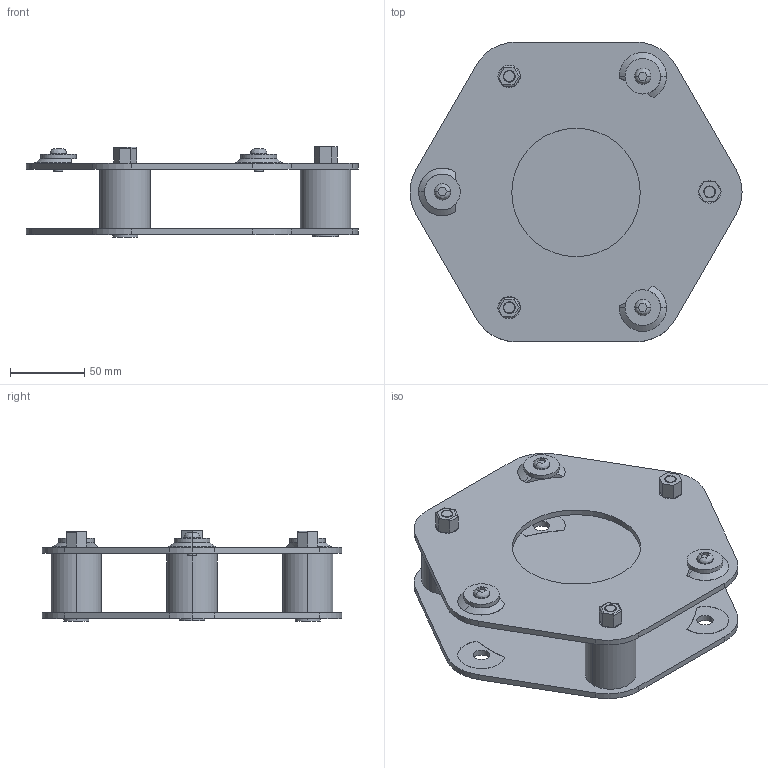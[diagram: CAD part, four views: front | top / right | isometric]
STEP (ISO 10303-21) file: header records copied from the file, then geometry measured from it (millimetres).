
FILE_DESCRIPTION (( 'STEP AP203' ), '1' );
FILE_NAME ('CAD_STP_Z_0684_EY2005.STEP', '2010-09-23T10:35:47', ( '' ), ( '' ), 'SwSTEP 2.0', 'SolidWorks 2006303', '' );
FILE_SCHEMA (( 'CONFIG_CONTROL_DESIGN' ));
Length unit declared in the file: millimetre
Products named in the file (21): Imported_Standard; Imported1_Standard; Imported19_Standard; Imported18_Standard; Imported17_Standard; Imported13_Standard; Imported15_Standard; Imported14_Standard; Imported11_Standard; Imported10_Standard; Imported9_Standard; Imported6_Standard; Imported5_Standard; CAD_STP_Z_0684_EY2005; Imported4_Standard; Imported3_Standard; Imported2_Standard; Imported12_Standard; Imported16_Standard; Imported8_Standard; Imported7_Standard
Assembly tree (20 placements, depth 2):
  CAD_STP_Z_0684_EY2005
    Imported19_Standard
    Imported7_Standard
    Imported15_Standard
    Imported10_Standard
    Imported4_Standard
    Imported2_Standard
    Imported3_Standard
    Imported18_Standard
    Imported8_Standard
    Imported17_Standard
    Imported13_Standard
    Imported5_Standard
    Imported6_Standard
    Imported12_Standard
    Imported11_Standard
    Imported_Standard
    Imported1_Standard
    Imported14_Standard
    Imported9_Standard
    Imported16_Standard
Bounding box: 223.64 x 201.72 x 60.66 mm (x, y, z)
Volume: 385564.2 mm3; surface area: 167220.8 mm2
Topology: 20 solids, 20 shells, 235 faces, 522 edges, 336 vertices
Faces by surface type: cylinder 112, plane 97, bspline 18, cone 8
Entity records: 10238 total; most frequent: CARTESIAN_POINT 2664, DIRECTION 1185, ORIENTED_EDGE 1044, EDGE_CURVE 522, AXIS2_PLACEMENT_3D 471, VERTEX_POINT 336, EDGE_LOOP 276, VECTOR 243
